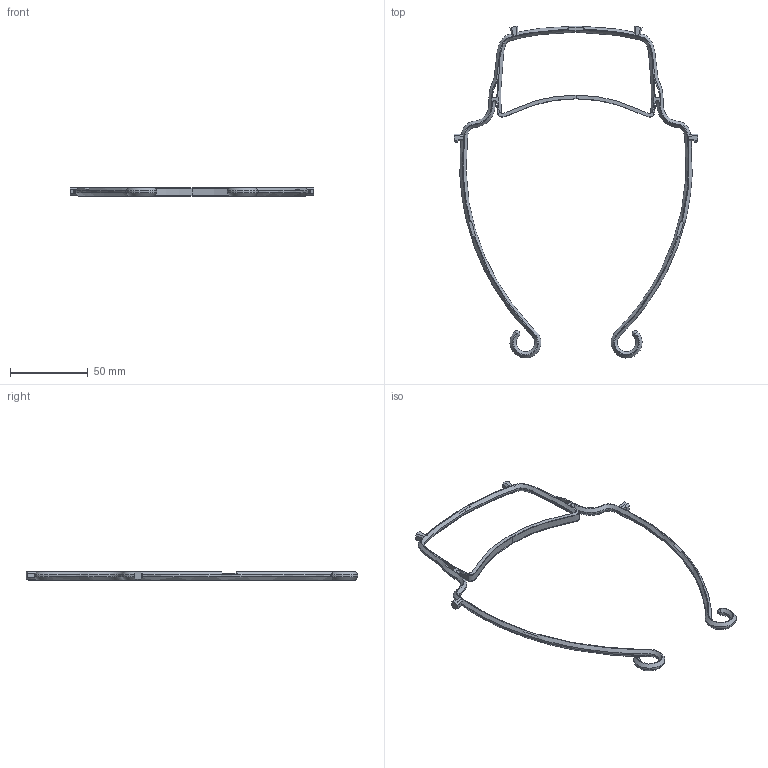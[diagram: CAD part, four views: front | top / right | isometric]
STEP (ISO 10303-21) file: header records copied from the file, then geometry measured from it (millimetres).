
FILE_DESCRIPTION(/* description */ (''),/* implementation_level */ '2;1');
FILE_NAME(/* name */ 'Long_1Stack',/* time_stamp */ '2020-03-30T16:05:29+11:00',/* author */ (''),/* organization */ (''),/* preprocessor_version */ 'ST-DEVELOPER v16.5',/* originating_system */ '',/* authorisation */ '');
FILE_SCHEMA (('AUTOMOTIVE_DESIGN'));
Length unit declared in the file: millimetre
Products named in the file (1): Document
Bounding box: 157.28 x 214.15 x 5.5 mm (x, y, z)
Volume: 13855.2 mm3; surface area: 11385.5 mm2
Topology: 5 solids, 5 shells, 121 faces, 301 edges, 188 vertices
Faces by surface type: bspline 70, plane 51
Entity records: 6103 total; most frequent: CARTESIAN_POINT 4075, ORIENTED_EDGE 602, EDGE_CURVE 301, B_SPLINE_CURVE_WITH_KNOTS 275, VERTEX_POINT 188, EDGE_LOOP 125, ADVANCED_FACE 121, FACE_OUTER_BOUND 121
